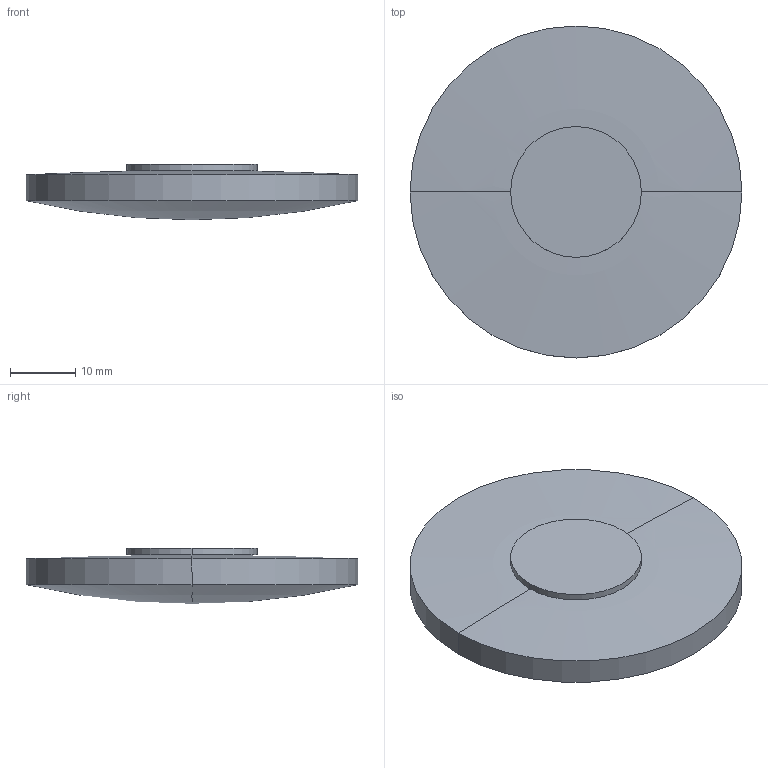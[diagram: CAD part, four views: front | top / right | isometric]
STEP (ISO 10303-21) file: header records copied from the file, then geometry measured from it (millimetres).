
FILE_DESCRIPTION(('STEP AP214'),'1');
FILE_NAME('LLU-51190.STEP','2020-03-09T17:42:15',(' '),(' '),'Spatial InterOp 3D',' ',' ');
FILE_SCHEMA(('AUTOMOTIVE_DESIGN { 1 0 10303 214 1 1 1 1 }'));
Length unit declared in the file: millimetre
Products named in the file (1): 1
Bounding box: 50.8 x 50.8 x 8.5 mm (x, y, z)
Volume: 11942.7 mm3; surface area: 5405.2 mm2
Topology: 2 solids, 2 shells, 10 faces, 20 edges, 10 vertices
Faces by surface type: sphere 4, cylinder 4, plane 2
Entity records: 255 total; most frequent: DIRECTION 52, CARTESIAN_POINT 38, ORIENTED_EDGE 32, AXIS2_PLACEMENT_3D 24, EDGE_CURVE 16, CIRCLE 12, ADVANCED_FACE 10, FACE_OUTER_BOUND 10
